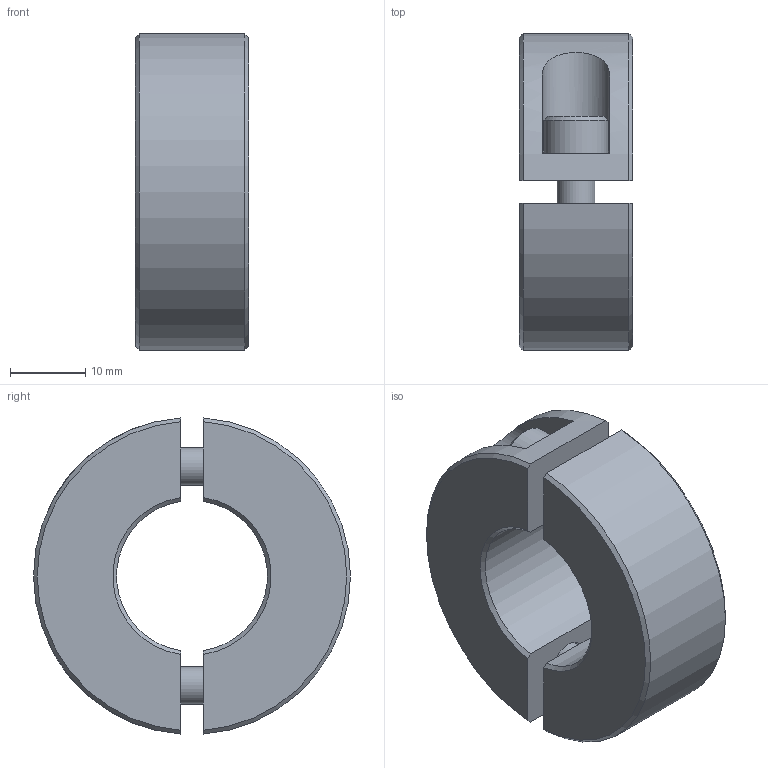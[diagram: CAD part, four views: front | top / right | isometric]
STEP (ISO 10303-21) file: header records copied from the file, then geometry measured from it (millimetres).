
FILE_DESCRIPTION(/* description */ ('STEP AP214'),/* implementation_level */ '2;1');
FILE_NAME(/* name */ 'Split Shaft Collar_ Aluminum GN 707.2-42-B20-AL',/* time_stamp */ '2024-06-10T15:26:42+02:00',/* author */ ('License CC BY-ND 4.0'),/* organization */ ('CADENAS'),/* preprocessor_version */ 'ST-DEVELOPER v19.3',/* originating_system */ 'PARTsolutions',/* authorisation */ ' ');
FILE_SCHEMA (('AUTOMOTIVE_DESIGN {1 0 10303 214 3 1 1}'));
Length unit declared in the file: millimetre
Products named in the file (1): Split Shaft Collar, Aluminum GN 707.2-42-B20-AL
Bounding box: 15 x 42 x 41.89 mm (x, y, z)
Volume: 14055.6 mm3; surface area: 6441.1 mm2
Topology: 1 solids, 3 shells, 74 faces, 172 edges, 110 vertices
Faces by surface type: plane 44, cone 16, cylinder 14
Full cylindrical faces by diameter (mm): 4.134 x2, 5 x2, 5.3 x2, 8.5 x2
Entity records: 2518 total; most frequent: CARTESIAN_POINT 393, DIRECTION 332, ORIENTED_EDGE 292, EDGE_CURVE 146, AXIS2_PLACEMENT_3D 129, VERTEX_POINT 104, FACE_BOUND 102, EDGE_LOOP 98
